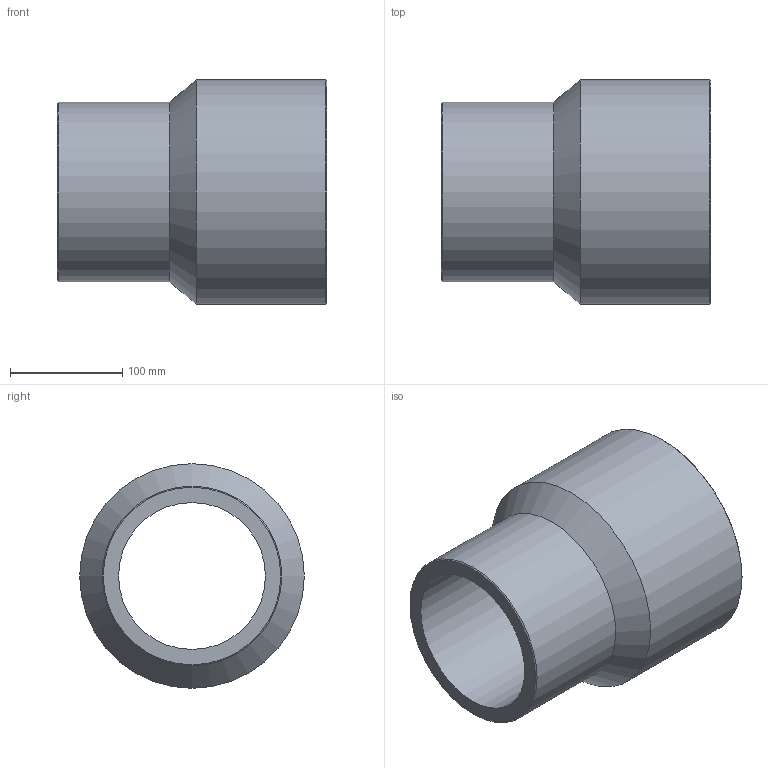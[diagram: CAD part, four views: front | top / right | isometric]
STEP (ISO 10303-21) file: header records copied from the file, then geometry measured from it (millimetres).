
FILE_DESCRIPTION(/* description */ ('Unknown'),/* implementation_level */ '2;1');
FILE_NAME(/* name */ 'RP200160C',/* time_stamp */ '2021-09-17T15:20:41+02:00',/* author */ ('Unknown'),/* organization */ ('Unknown'),/* preprocessor_version */ 'ST-DEVELOPER v16.7',/* originating_system */ 'Solid Edge',/* authorisation */ 'Unknown');
FILE_SCHEMA (('AUTOMOTIVE_DESIGN {1 0 10303 214 3 1 1}'));
Length unit declared in the file: millimetre
Products named in the file (1): RP200160C
Bounding box: 240 x 200 x 200 mm (x, y, z)
Volume: 2166550.6 mm3; surface area: 269981.6 mm2
Topology: 1 solids, 1 shells, 10 faces, 19 edges, 11 vertices
Faces by surface type: cylinder 4, cone 4, plane 2
Full cylindrical faces by diameter (mm): 130.8 x1, 160 x1, 163.6 x1, 200 x1
Entity records: 238 total; most frequent: DIRECTION 42, CARTESIAN_POINT 31, AXIS2_PLACEMENT_3D 21, ORIENTED_EDGE 20, EDGE_LOOP 20, FACE_BOUND 20, EDGE_CURVE 10, VERTEX_POINT 10
